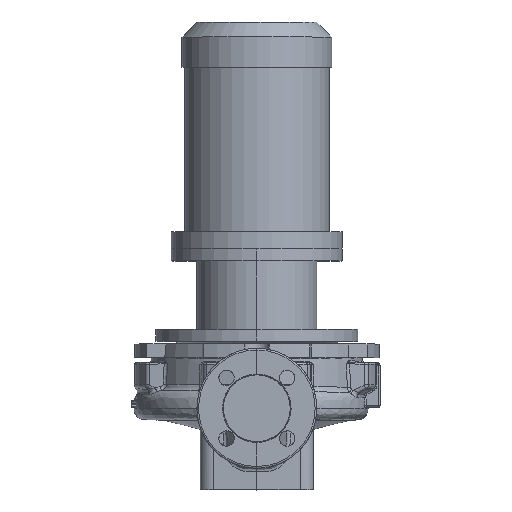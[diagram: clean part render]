
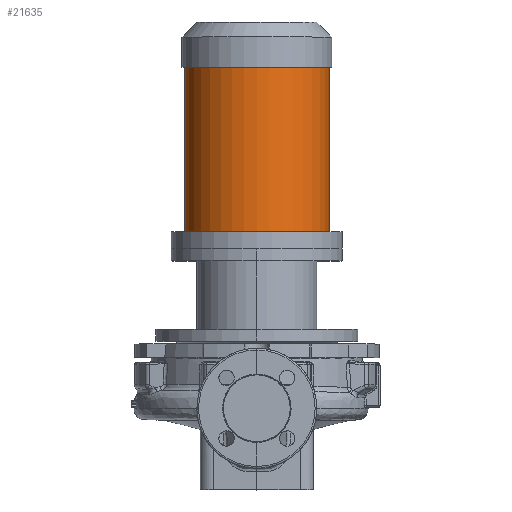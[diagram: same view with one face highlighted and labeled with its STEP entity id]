
A CAD part, top view. The second image highlights one B-rep face of the part: STEP entity #21635.
In plain terms, the highlighted cylindrical face has radius 84.5 mm (diameter 169 mm), a partial arc.
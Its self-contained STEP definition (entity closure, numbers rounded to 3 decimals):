
#2684 = AXIS2_PLACEMENT_3D ( 'NONE', #23904, #14443, #53926 ) ;
#8362 = ORIENTED_EDGE ( 'NONE', *, *, #58657, .F. ) ;
#9667 = CARTESIAN_POINT ( 'NONE',  ( -84.5, 186.3, 0. ) ) ;
#13015 = EDGE_CURVE ( 'NONE', #17197, #31787, #49424, .T. ) ;
#13428 = CARTESIAN_POINT ( 'NONE',  ( 84.5, 206.3, 0. ) ) ;
#14443 = DIRECTION ( 'NONE',  ( 0., -1., 0. ) ) ;
#15106 = CARTESIAN_POINT ( 'NONE',  ( 0., 206.3, 0. ) ) ;
#15152 = CIRCLE ( 'NONE', #24789, 84.5 ) ;
#16635 = VERTEX_POINT ( 'NONE', #13428 ) ;
#16847 = LINE ( 'NONE', #51765, #39981 ) ;
#17197 = VERTEX_POINT ( 'NONE', #36110 ) ;
#21635 = ADVANCED_FACE ( 'NONE', ( #40314 ), #22482, .T. ) ;
#22184 = DIRECTION ( 'NONE',  ( 0., -1., 0. ) ) ;
#22482 = CYLINDRICAL_SURFACE ( 'NONE', #2684, 84.5 ) ;
#23904 = CARTESIAN_POINT ( 'NONE',  ( 0., 186.3, 0. ) ) ;
#24723 = EDGE_CURVE ( 'NONE', #30110, #17197, #15152, .T. ) ;
#24789 = AXIS2_PLACEMENT_3D ( 'NONE', #36716, #41034, #51193 ) ;
#29948 = DIRECTION ( 'NONE',  ( 0., -1., 0. ) ) ;
#30110 = VERTEX_POINT ( 'NONE', #63622 ) ;
#30780 = DIRECTION ( 'NONE',  ( -1., 0., 0. ) ) ;
#31454 = ORIENTED_EDGE ( 'NONE', *, *, #24723, .T. ) ;
#31787 = VERTEX_POINT ( 'NONE', #46044 ) ;
#33158 = VECTOR ( 'NONE', #43709, 1000. ) ;
#36110 = CARTESIAN_POINT ( 'NONE',  ( -84.5, 398.3, 0. ) ) ;
#36716 = CARTESIAN_POINT ( 'NONE',  ( 0., 398.3, 0. ) ) ;
#39981 = VECTOR ( 'NONE', #22184, 1000. ) ;
#40314 = FACE_OUTER_BOUND ( 'NONE', #48288, .T. ) ;
#41034 = DIRECTION ( 'NONE',  ( 0., -1., 0. ) ) ;
#43709 = DIRECTION ( 'NONE',  ( 0., -1., 0. ) ) ;
#46044 = CARTESIAN_POINT ( 'NONE',  ( -84.5, 206.3, 0. ) ) ;
#48288 = EDGE_LOOP ( 'NONE', ( #62520, #31454, #57368, #8362 ) ) ;
#49424 = LINE ( 'NONE', #9667, #33158 ) ;
#51193 = DIRECTION ( 'NONE',  ( -1., 0., 0. ) ) ;
#51765 = CARTESIAN_POINT ( 'NONE',  ( 84.5, 186.3, 0. ) ) ;
#53926 = DIRECTION ( 'NONE',  ( -1., 0., 0. ) ) ;
#57368 = ORIENTED_EDGE ( 'NONE', *, *, #13015, .T. ) ;
#57819 = AXIS2_PLACEMENT_3D ( 'NONE', #15106, #29948, #30780 ) ;
#58657 = EDGE_CURVE ( 'NONE', #16635, #31787, #61268, .T. ) ;
#61268 = CIRCLE ( 'NONE', #57819, 84.5 ) ;
#62520 = ORIENTED_EDGE ( 'NONE', *, *, #63663, .F. ) ;
#63622 = CARTESIAN_POINT ( 'NONE',  ( 84.5, 398.3, 0. ) ) ;
#63663 = EDGE_CURVE ( 'NONE', #30110, #16635, #16847, .T. ) ;
